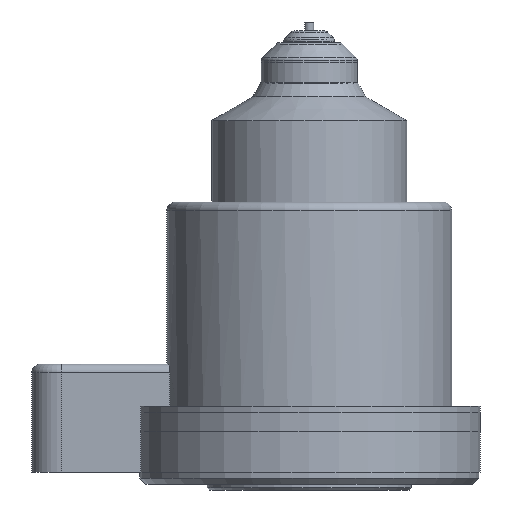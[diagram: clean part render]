
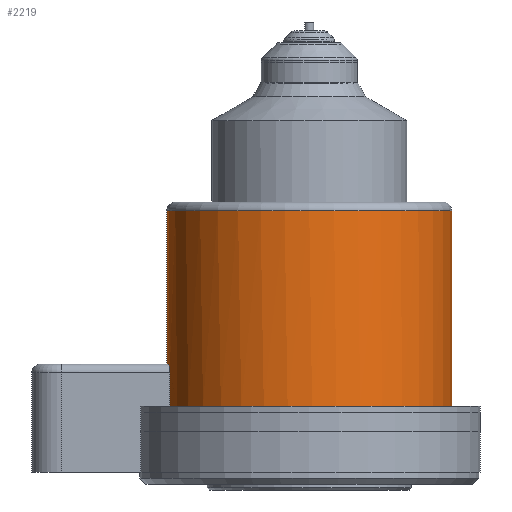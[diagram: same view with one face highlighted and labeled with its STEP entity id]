
A CAD part, front view. The second image highlights one B-rep face of the part: STEP entity #2219.
In plain terms, the highlighted cylindrical face has radius 47.5 mm (diameter 95 mm), a partial arc.
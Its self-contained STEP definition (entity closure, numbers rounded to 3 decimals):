
#33 = EDGE_LOOP ( 'NONE', ( #13072, #13073, #13076, #13081, #13089, #13102, #13106 ) ) ;
#372 = CYLINDRICAL_SURFACE ( 'NONE', #1866, 47.5 ) ;
#419 = FACE_OUTER_BOUND ( 'NONE', #33, .T. ) ;
#1866 = AXIS2_PLACEMENT_3D ( 'NONE', #14023, #14021, #14020 ) ;
#2219 = ADVANCED_FACE ( 'NONE', ( #419 ), #372, .T. ) ;
#2956 = B_SPLINE_CURVE_WITH_KNOTS ( 'NONE', 3,
 ( #9385, #9384, #9383, #9382, #9381, #9380, #9379, #9378, #9377, #9376, #9375, #9374, #9373, #9372, #9371, #9368, #9367, #9366 ),
 .UNSPECIFIED., .F., .F.,
 ( 4, 2, 2, 2, 2, 2, 2, 2, 4 ),
 ( 0.009, 0.01, 0.011, 0.011, 0.012, 0.012, 0.013, 0.014, 0.014 ),
 .UNSPECIFIED. ) ;
#3484 = CIRCLE ( 'NONE', #7705, 47.5 ) ;
#3525 = VECTOR ( 'NONE', #9726, 1000. ) ;
#3529 = LINE ( 'NONE', #9727, #3525 ) ;
#3632 = LINE ( 'NONE', #9695, #4050 ) ;
#3781 = CIRCLE ( 'NONE', #7797, 47.5 ) ;
#3782 = VECTOR ( 'NONE', #9345, 1000. ) ;
#3785 = LINE ( 'NONE', #9346, #3782 ) ;
#3788 = CIRCLE ( 'NONE', #7670, 47.5 ) ;
#4050 = VECTOR ( 'NONE', #9694, 1000. ) ;
#7670 = AXIS2_PLACEMENT_3D ( 'NONE', #9353, #9352, #9351 ) ;
#7705 = AXIS2_PLACEMENT_3D ( 'NONE', #9363, #9362, #9361 ) ;
#7797 = AXIS2_PLACEMENT_3D ( 'NONE', #9344, #9343, #9342 ) ;
#8146 = EDGE_CURVE ( 'NONE', #11554, #11598, #3529, .T. ) ;
#8151 = EDGE_CURVE ( 'NONE', #11733, #11803, #3632, .T. ) ;
#8282 = EDGE_CURVE ( 'NONE', #11815, #11647, #2956, .T. ) ;
#8284 = EDGE_CURVE ( 'NONE', #11647, #11803, #3484, .T. ) ;
#8288 = EDGE_CURVE ( 'NONE', #11635, #11598, #3788, .T. ) ;
#8290 = EDGE_CURVE ( 'NONE', #11635, #11815, #3785, .T. ) ;
#8291 = EDGE_CURVE ( 'NONE', #11554, #11733, #3781, .T. ) ;
#8530 = CARTESIAN_POINT ( 'NONE',  ( -46.435, -10., 39. ) ) ;
#8539 = CARTESIAN_POINT ( 'NONE',  ( -47.5, 0., 42. ) ) ;
#8608 = CARTESIAN_POINT ( 'NONE',  ( -47.5, 0., 93. ) ) ;
#8701 = CARTESIAN_POINT ( 'NONE',  ( -46.981, -7., 42. ) ) ;
#8712 = CARTESIAN_POINT ( 'NONE',  ( -46.435, -10., 28. ) ) ;
#8753 = CARTESIAN_POINT ( 'NONE',  ( 47.5, 0., 28. ) ) ;
#8797 = CARTESIAN_POINT ( 'NONE',  ( 47.5, 0., 93. ) ) ;
#9342 = DIRECTION ( 'NONE',  ( -1., 0., 0. ) ) ;
#9343 = DIRECTION ( 'NONE',  ( 0., 0., -1. ) ) ;
#9344 = CARTESIAN_POINT ( 'NONE',  ( 0., 0., 93. ) ) ;
#9345 = DIRECTION ( 'NONE',  ( 0., 0., 1. ) ) ;
#9346 = CARTESIAN_POINT ( 'NONE',  ( -46.435, -10., 0. ) ) ;
#9351 = DIRECTION ( 'NONE',  ( -1., 0., 0. ) ) ;
#9352 = DIRECTION ( 'NONE',  ( 0., 0., 1. ) ) ;
#9353 = CARTESIAN_POINT ( 'NONE',  ( 0., 0., 28. ) ) ;
#9361 = DIRECTION ( 'NONE',  ( 1., 0., 0. ) ) ;
#9362 = DIRECTION ( 'NONE',  ( 0., 0., -1. ) ) ;
#9363 = CARTESIAN_POINT ( 'NONE',  ( 0., 0., 42. ) ) ;
#9366 = CARTESIAN_POINT ( 'NONE',  ( -46.981, -7., 42. ) ) ;
#9367 = CARTESIAN_POINT ( 'NONE',  ( -46.952, -7.198, 42. ) ) ;
#9368 = CARTESIAN_POINT ( 'NONE',  ( -46.922, -7.392, 41.981 ) ) ;
#9371 = CARTESIAN_POINT ( 'NONE',  ( -46.86, -7.773, 41.905 ) ) ;
#9372 = CARTESIAN_POINT ( 'NONE',  ( -46.828, -7.963, 41.848 ) ) ;
#9373 = CARTESIAN_POINT ( 'NONE',  ( -46.765, -8.325, 41.699 ) ) ;
#9374 = CARTESIAN_POINT ( 'NONE',  ( -46.734, -8.497, 41.607 ) ) ;
#9375 = CARTESIAN_POINT ( 'NONE',  ( -46.674, -8.822, 41.391 ) ) ;
#9376 = CARTESIAN_POINT ( 'NONE',  ( -46.644, -8.976, 41.265 ) ) ;
#9377 = CARTESIAN_POINT ( 'NONE',  ( -46.59, -9.254, 40.99 ) ) ;
#9378 = CARTESIAN_POINT ( 'NONE',  ( -46.565, -9.379, 40.839 ) ) ;
#9379 = CARTESIAN_POINT ( 'NONE',  ( -46.52, -9.599, 40.511 ) ) ;
#9380 = CARTESIAN_POINT ( 'NONE',  ( -46.501, -9.693, 40.336 ) ) ;
#9381 = CARTESIAN_POINT ( 'NONE',  ( -46.469, -9.844, 39.974 ) ) ;
#9382 = CARTESIAN_POINT ( 'NONE',  ( -46.456, -9.903, 39.783 ) ) ;
#9383 = CARTESIAN_POINT ( 'NONE',  ( -46.44, -9.981, 39.393 ) ) ;
#9384 = CARTESIAN_POINT ( 'NONE',  ( -46.435, -10., 39.197 ) ) ;
#9385 = CARTESIAN_POINT ( 'NONE',  ( -46.435, -10., 39. ) ) ;
#9694 = DIRECTION ( 'NONE',  ( 0., 0., -1. ) ) ;
#9695 = CARTESIAN_POINT ( 'NONE',  ( -47.5, 0., 0. ) ) ;
#9726 = DIRECTION ( 'NONE',  ( 0., 0., -1. ) ) ;
#9727 = CARTESIAN_POINT ( 'NONE',  ( 47.5, 0., 0. ) ) ;
#11554 = VERTEX_POINT ( 'NONE', #8797 ) ;
#11598 = VERTEX_POINT ( 'NONE', #8753 ) ;
#11635 = VERTEX_POINT ( 'NONE', #8712 ) ;
#11647 = VERTEX_POINT ( 'NONE', #8701 ) ;
#11733 = VERTEX_POINT ( 'NONE', #8608 ) ;
#11803 = VERTEX_POINT ( 'NONE', #8539 ) ;
#11815 = VERTEX_POINT ( 'NONE', #8530 ) ;
#13072 = ORIENTED_EDGE ( 'NONE', *, *, #8146, .F. ) ;
#13073 = ORIENTED_EDGE ( 'NONE', *, *, #8291, .T. ) ;
#13076 = ORIENTED_EDGE ( 'NONE', *, *, #8151, .T. ) ;
#13081 = ORIENTED_EDGE ( 'NONE', *, *, #8284, .F. ) ;
#13089 = ORIENTED_EDGE ( 'NONE', *, *, #8282, .F. ) ;
#13102 = ORIENTED_EDGE ( 'NONE', *, *, #8290, .F. ) ;
#13106 = ORIENTED_EDGE ( 'NONE', *, *, #8288, .T. ) ;
#14020 = DIRECTION ( 'NONE',  ( -1., 0., 0. ) ) ;
#14021 = DIRECTION ( 'NONE',  ( 0., 0., -1. ) ) ;
#14023 = CARTESIAN_POINT ( 'NONE',  ( 0., 0., 0. ) ) ;
